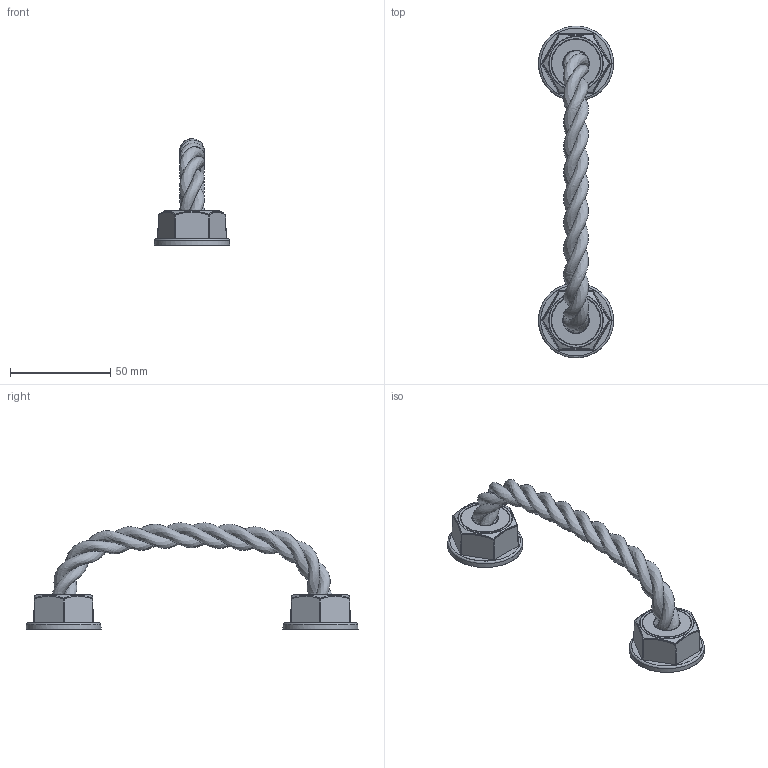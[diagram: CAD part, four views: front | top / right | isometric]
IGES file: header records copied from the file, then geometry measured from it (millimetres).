
Start section: C
Global section: file name: 8279-165.igs; native system: By Siemens PLM Incorporated; preprocessor: XPlus GENERIC/IGES 16.0.42; author: Author; organization: Title; date: 20210331.082831; units: millimetre
Bounding box: 37.4 x 165.39 x 52.88 mm (x, y, z)
Surface area: 21351.9 mm2 (no closed solid volume)
Topology: 0 solids, 0 shells, 219 faces, 1246 edges, 1246 vertices
Faces by surface type: bspline 219
